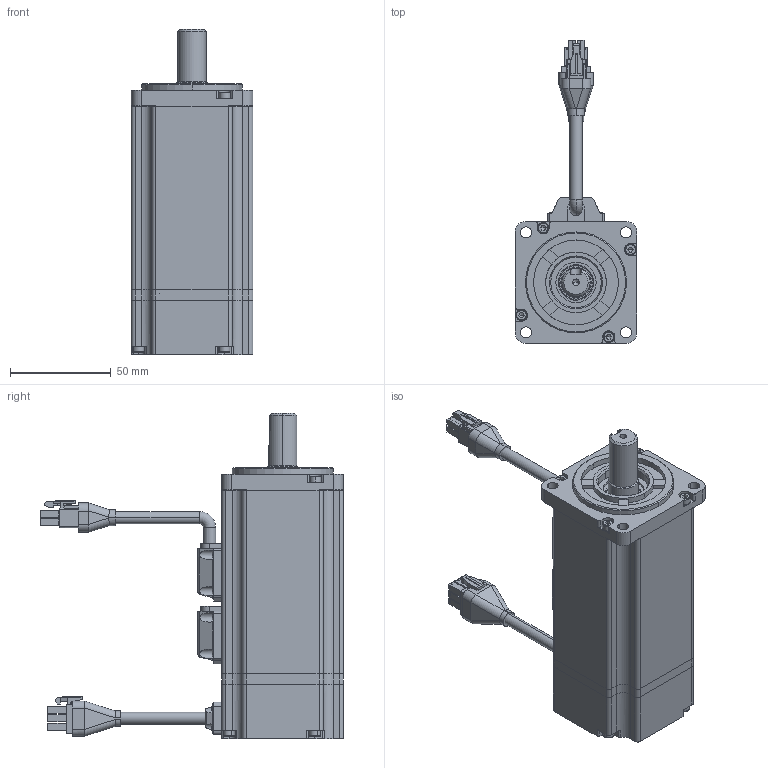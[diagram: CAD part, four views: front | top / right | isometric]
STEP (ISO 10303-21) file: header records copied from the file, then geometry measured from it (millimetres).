
FILE_DESCRIPTION (( 'STEP AP203' ), '1' );
FILE_NAME ('R60-400.STEP', '2019-08-23T05:48:06', ( '1' ), ( 'MideaGroup IT' ), 'SwSTEP 2.0', 'SolidWorks 2012', '' );
FILE_SCHEMA (( 'CONFIG_CONTROL_DESIGN' ));
Products named in the file (26): R60-400; 雄薯盄揤裔郪璃; M3X28_GB_FASTENER_SCREWS_HSHCS M3X25-C; 雄薯盄傷赽裔; 雄薯盄; 雄薯盄傷赽; 雄薯盄躇猾菜; 雄薯盄揤裔; 毀嚏盄揤裔郪璃; 毀嚏盄傷赽揤裔; M2.5X5_GB_CROSS_SCREWS_TYPE3 M2.5X8-8-N; 晤鎢ん盄傷赽; 晤鎢ん盄揤裔躇猾; 晤鎢ん盄揤裔; 蛌赽郪璃-001; 6003; 6003_qiu; 6003_bq; 6003_nh; 6003_wq; 萇儂粣-001; 綴裔-001; 綴傷裔-001; ヶ傷裔-001; 儂褲-001
Assembly tree (56 placements, depth 4):
  R60-400
    儂褲-001
    ヶ傷裔-001
    綴傷裔-001
    綴裔-001
    蛌赽郪璃-001
      萇儂粣-001
      6003
        6003_wq
        6003_nh
        6003_bq
        6003_qiu  x11
    毀嚏盄揤裔郪璃
      晤鎢ん盄揤裔
      晤鎢ん盄揤裔躇猾
      晤鎢ん盄傷赽
      M2.5X5_GB_CROSS_SCREWS_TYPE3 M2.5X8-8-N  x4
      毀嚏盄傷赽揤裔
    雄薯盄揤裔郪璃
      雄薯盄揤裔
      雄薯盄躇猾菜
      雄薯盄傷赽
      雄薯盄
      M2.5X5_GB_CROSS_SCREWS_TYPE3 M2.5X8-8-N  x4
      雄薯盄傷赽裔
    M3X28_GB_FASTENER_SCREWS_HSHCS M3X25-C  x8
    雄薯盄揤裔郪璃
      雄薯盄揤裔
      雄薯盄躇猾菜
      雄薯盄
      M2.5X5_GB_CROSS_SCREWS_TYPE3 M2.5X8-8-N  x4
Bounding box: 60.2 x 150 x 161 mm (x, y, z)
Volume: 159701.9 mm3; surface area: 113077.1 mm2
Topology: 56 solids, 82 shells, 1826 faces, 4948 edges, 3266 vertices
Faces by surface type: plane 904, cylinder 709, cone 89, torus 56, sphere 46, bspline 22
Entity records: 46612 total; most frequent: CARTESIAN_POINT 11906, DIRECTION 6602, ORIENTED_EDGE 6269, EDGE_CURVE 3315, AXIS2_PLACEMENT_3D 2338, VERTEX_POINT 2206, LINE 1926, VECTOR 1926
